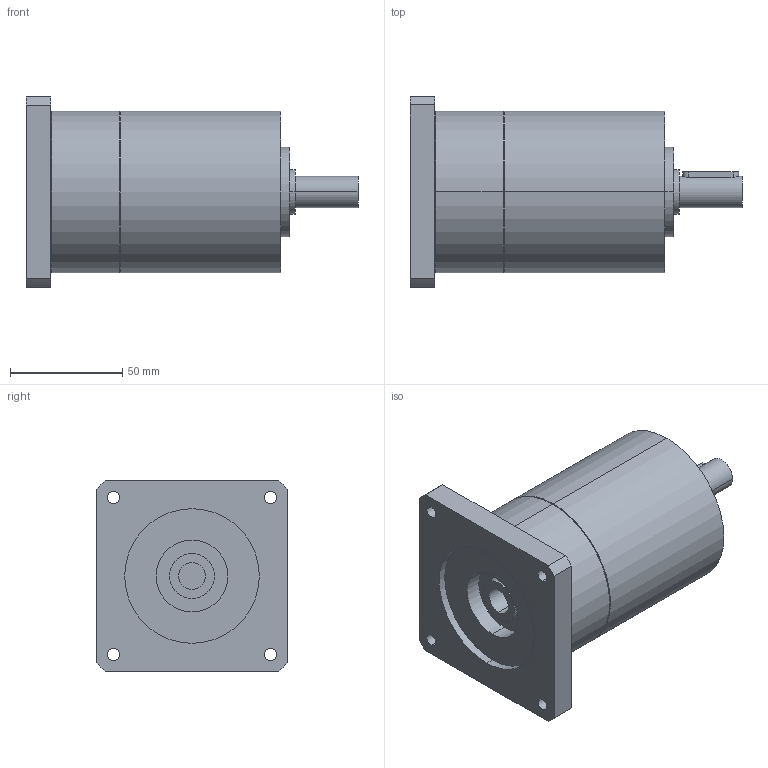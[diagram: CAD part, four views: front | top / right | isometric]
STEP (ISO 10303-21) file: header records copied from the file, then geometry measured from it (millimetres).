
FILE_DESCRIPTION(('CoCreate Modeling STEP Export'),'2;1');
FILE_NAME('GPT75_ig-9-12-16-20-25-28-35-40-50-70-100_14_B14T_12_P33.stp','2014-08-27T13:16:42',(''),(''),'CoCreate Modeling STEP processor for AP214 (Solid Model)','CoCreate Modeling 16.00C 25-Feb-2009 (C) Parametric Technology GmbH','');
FILE_SCHEMA(('AUTOMOTIVE_DESIGN { 1 0 10303 214 1 1 1 1 }'));
Length unit declared in the file: millimetre
Products named in the file (2): GPT75_ig-9-12-16-20-25-28-35-40-50-70-100_14_B14T_12_P33
Assembly tree (1 placements, depth 2):
  GPT75_ig-9-12-16-20-25-28-35-40-50-70-100_14_B14T_12_P33
    GPT75_ig-9-12-16-20-25-28-35-40-50-70-100_14_B14T_12_P33
Bounding box: 148 x 85 x 85 mm (x, y, z)
Volume: 486309.9 mm3; surface area: 47788 mm2
Topology: 1 solids, 1 shells, 69 faces, 166 edges, 113 vertices
Faces by surface type: cylinder 42, plane 23, cone 4
Entity records: 2161 total; most frequent: CARTESIAN_POINT 664, ORIENTED_EDGE 332, DIRECTION 262, EDGE_CURVE 166, VERTEX_POINT 113, AXIS2_PLACEMENT_3D 99, EDGE_LOOP 91, FACE_OUTER_BOUND 69
